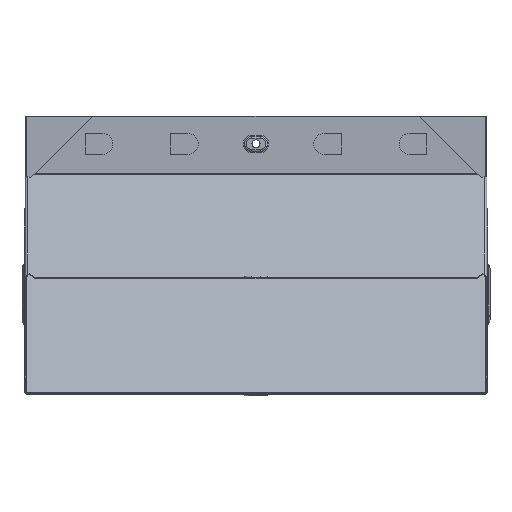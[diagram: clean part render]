
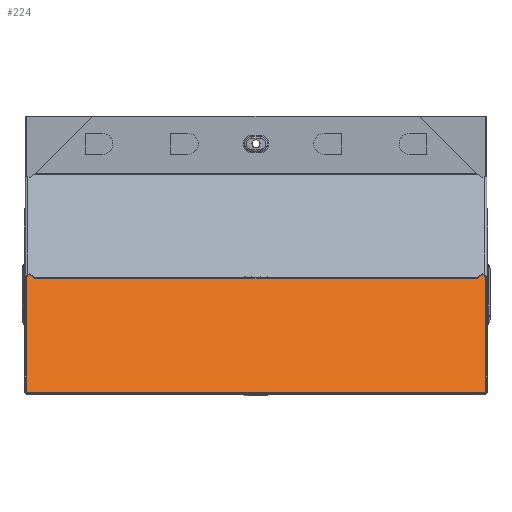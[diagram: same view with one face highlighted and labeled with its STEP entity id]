
A CAD part, front view. The second image highlights one B-rep face of the part: STEP entity #224.
In plain terms, the highlighted planar face has unit normal (0, -0.707, 0.707).
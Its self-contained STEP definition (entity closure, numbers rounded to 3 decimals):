
#224 = ADVANCED_FACE ( 'NONE', ( #7855 ), #4294, .F. ) ;
#377 = DIRECTION ( 'NONE',  ( -1., 0., 0. ) ) ;
#625 = CARTESIAN_POINT ( 'NONE',  ( 199., 95.718, -95.718 ) ) ;
#626 = VECTOR ( 'NONE', #7081, 1000. ) ;
#671 = VECTOR ( 'NONE', #7533, 1000. ) ;
#686 = VERTEX_POINT ( 'NONE', #2935 ) ;
#914 = EDGE_CURVE ( 'NONE', #9327, #2687, #4782, .T. ) ;
#1127 = CARTESIAN_POINT ( 'NONE',  ( 199., 169.707, -21.73 ) ) ;
#1691 = DIRECTION ( 'NONE',  ( 0., -0.707, -0.707 ) ) ;
#1829 = VECTOR ( 'NONE', #377, 1000. ) ;
#2106 = CARTESIAN_POINT ( 'NONE',  ( 199., 169.707, -21.73 ) ) ;
#2436 = AXIS2_PLACEMENT_3D ( 'NONE', #625, #9351, #9220 ) ;
#2687 = VERTEX_POINT ( 'NONE', #3097 ) ;
#2935 = CARTESIAN_POINT ( 'NONE',  ( -199., 169.707, -21.73 ) ) ;
#2938 = VECTOR ( 'NONE', #1691, 1000. ) ;
#3097 = CARTESIAN_POINT ( 'NONE',  ( 199., 21.73, -169.707 ) ) ;
#3583 = CARTESIAN_POINT ( 'NONE',  ( -199., 21.73, -169.707 ) ) ;
#3624 = EDGE_CURVE ( 'NONE', #2687, #7186, #5286, .T. ) ;
#4294 = PLANE ( 'NONE',  #2436 ) ;
#4395 = EDGE_CURVE ( 'NONE', #9327, #686, #5500, .T. ) ;
#4782 = LINE ( 'NONE', #4835, #626 ) ;
#4835 = CARTESIAN_POINT ( 'NONE',  ( 199., 95.718, -95.718 ) ) ;
#5161 = LINE ( 'NONE', #8796, #2938 ) ;
#5286 = LINE ( 'NONE', #5341, #1829 ) ;
#5341 = CARTESIAN_POINT ( 'NONE',  ( 199., 21.73, -169.707 ) ) ;
#5500 = LINE ( 'NONE', #1127, #671 ) ;
#5551 = ORIENTED_EDGE ( 'NONE', *, *, #3624, .F. ) ;
#6426 = EDGE_LOOP ( 'NONE', ( #8698, #5551, #8860, #7004 ) ) ;
#7004 = ORIENTED_EDGE ( 'NONE', *, *, #4395, .T. ) ;
#7081 = DIRECTION ( 'NONE',  ( 0., -0.707, -0.707 ) ) ;
#7186 = VERTEX_POINT ( 'NONE', #3583 ) ;
#7533 = DIRECTION ( 'NONE',  ( -1., 0., 0. ) ) ;
#7855 = FACE_OUTER_BOUND ( 'NONE', #6426, .T. ) ;
#8330 = EDGE_CURVE ( 'NONE', #686, #7186, #5161, .T. ) ;
#8698 = ORIENTED_EDGE ( 'NONE', *, *, #8330, .T. ) ;
#8796 = CARTESIAN_POINT ( 'NONE',  ( -199., 95.718, -95.718 ) ) ;
#8860 = ORIENTED_EDGE ( 'NONE', *, *, #914, .F. ) ;
#9220 = DIRECTION ( 'NONE',  ( 0., 0.707, 0.707 ) ) ;
#9327 = VERTEX_POINT ( 'NONE', #2106 ) ;
#9351 = DIRECTION ( 'NONE',  ( 0., 0.707, -0.707 ) ) ;
